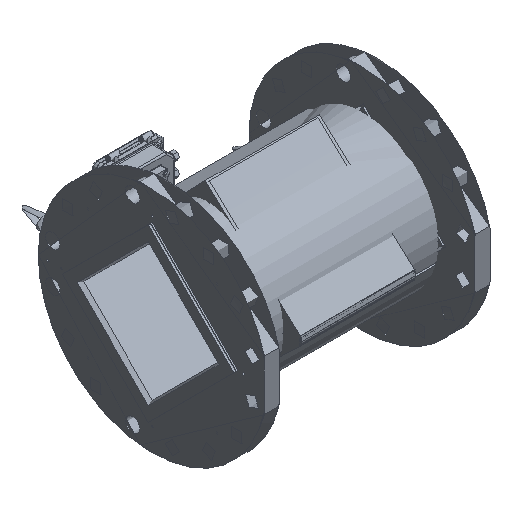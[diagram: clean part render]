
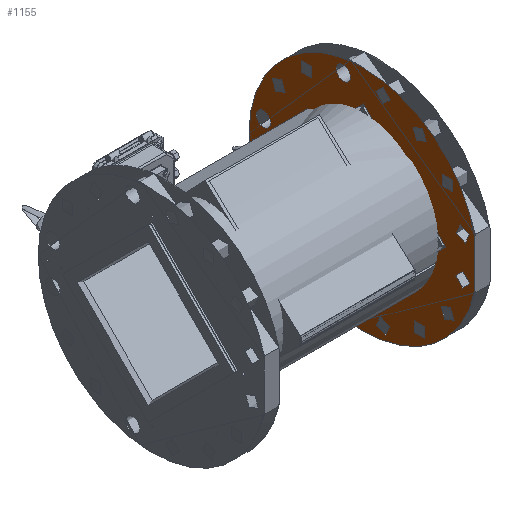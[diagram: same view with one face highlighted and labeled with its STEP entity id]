
A CAD part, isometric view. The second image highlights one B-rep face of the part: STEP entity #1155.
In plain terms, the highlighted planar face has unit normal (-1, 0, 0).
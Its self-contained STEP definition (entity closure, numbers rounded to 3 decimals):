
#1155=ADVANCED_FACE('',(#25189,#25191,#25193,#25195,#25197,#25199,#25201,#25203,
#25205,#25207,#25209,#25211,#25213,#25215,#25217,#25219,#25221,#25223,#25225),#25227,
.T.);
#25189=FACE_BOUND('',#25190,.T.);
#25190=EDGE_LOOP('',(#39818,#39819));
#25191=FACE_BOUND('',#25192,.T.);
#25192=EDGE_LOOP('',(#39820));
#25193=FACE_BOUND('',#25194,.T.);
#25194=EDGE_LOOP('',(#39821));
#25195=FACE_BOUND('',#25196,.T.);
#25196=EDGE_LOOP('',(#39822));
#25197=FACE_BOUND('',#25198,.T.);
#25198=EDGE_LOOP('',(#39823));
#25199=FACE_BOUND('',#25200,.T.);
#25200=EDGE_LOOP('',(#39824));
#25201=FACE_BOUND('',#25202,.T.);
#25202=EDGE_LOOP('',(#39825));
#25203=FACE_BOUND('',#25204,.T.);
#25204=EDGE_LOOP('',(#39826));
#25205=FACE_BOUND('',#25206,.T.);
#25206=EDGE_LOOP('',(#39827));
#25207=FACE_BOUND('',#25208,.T.);
#25208=EDGE_LOOP('',(#39828));
#25209=FACE_BOUND('',#25210,.T.);
#25210=EDGE_LOOP('',(#39829));
#25211=FACE_BOUND('',#25212,.T.);
#25212=EDGE_LOOP('',(#39830));
#25213=FACE_BOUND('',#25214,.T.);
#25214=EDGE_LOOP('',(#39831));
#25215=FACE_BOUND('',#25216,.T.);
#25216=EDGE_LOOP('',(#39832));
#25217=FACE_BOUND('',#25218,.T.);
#25218=EDGE_LOOP('',(#39833));
#25219=FACE_BOUND('',#25220,.T.);
#25220=EDGE_LOOP('',(#39834));
#25221=FACE_BOUND('',#25222,.T.);
#25222=EDGE_LOOP('',(#39835));
#25223=FACE_BOUND('',#25224,.T.);
#25224=EDGE_LOOP('',(#39836));
#25225=FACE_BOUND('',#25226,.T.);
#25226=EDGE_LOOP('',(#39837));
#25227=PLANE('',#25228);
#25228=AXIS2_PLACEMENT_3D('',#25229,#25230,#25231);
#25229=CARTESIAN_POINT('',(207.,-169.327,0.));
#25230=DIRECTION('',(-1.,0.,0.));
#25231=DIRECTION('',(0.,1.,0.));
#39818=ORIENTED_EDGE('',*,*,#53259,.T.);
#39819=ORIENTED_EDGE('',*,*,#53293,.F.);
#39820=ORIENTED_EDGE('',*,*,#53262,.T.);
#39821=ORIENTED_EDGE('',*,*,#53264,.T.);
#39822=ORIENTED_EDGE('',*,*,#53294,.T.);
#39823=ORIENTED_EDGE('',*,*,#53266,.T.);
#39824=ORIENTED_EDGE('',*,*,#53267,.T.);
#39825=ORIENTED_EDGE('',*,*,#53268,.T.);
#39826=ORIENTED_EDGE('',*,*,#53269,.T.);
#39827=ORIENTED_EDGE('',*,*,#53270,.T.);
#39828=ORIENTED_EDGE('',*,*,#53271,.T.);
#39829=ORIENTED_EDGE('',*,*,#53272,.T.);
#39830=ORIENTED_EDGE('',*,*,#53273,.T.);
#39831=ORIENTED_EDGE('',*,*,#53274,.T.);
#39832=ORIENTED_EDGE('',*,*,#53275,.T.);
#39833=ORIENTED_EDGE('',*,*,#53276,.T.);
#39834=ORIENTED_EDGE('',*,*,#53277,.T.);
#39835=ORIENTED_EDGE('',*,*,#53278,.T.);
#39836=ORIENTED_EDGE('',*,*,#53279,.T.);
#39837=ORIENTED_EDGE('',*,*,#53280,.T.);
#53259=EDGE_CURVE('',#56061,#56059,#56062,.F.);
#53262=EDGE_CURVE('',#56065,#56065,#56066,.T.);
#53264=EDGE_CURVE('',#56069,#56069,#56070,.T.);
#53266=EDGE_CURVE('',#56073,#56073,#56074,.T.);
#53267=EDGE_CURVE('',#56075,#56075,#56076,.T.);
#53268=EDGE_CURVE('',#56077,#56077,#56078,.T.);
#53269=EDGE_CURVE('',#56079,#56079,#56080,.T.);
#53270=EDGE_CURVE('',#56081,#56081,#56082,.T.);
#53271=EDGE_CURVE('',#56083,#56083,#56084,.T.);
#53272=EDGE_CURVE('',#56085,#56085,#56086,.T.);
#53273=EDGE_CURVE('',#56087,#56087,#56088,.T.);
#53274=EDGE_CURVE('',#56089,#56089,#56090,.T.);
#53275=EDGE_CURVE('',#56091,#56091,#56092,.T.);
#53276=EDGE_CURVE('',#56093,#56093,#56094,.T.);
#53277=EDGE_CURVE('',#56095,#56095,#56096,.T.);
#53278=EDGE_CURVE('',#56097,#56097,#56098,.T.);
#53279=EDGE_CURVE('',#56099,#56099,#56100,.T.);
#53280=EDGE_CURVE('',#56101,#56101,#56102,.T.);
#53293=EDGE_CURVE('',#56061,#56059,#56126,.T.);
#53294=EDGE_CURVE('',#56127,#56127,#56128,.T.);
#56059=VERTEX_POINT('',#61846);
#56061=VERTEX_POINT('',#61857);
#56062=LINE('',#61858,#61859);
#56065=VERTEX_POINT('',#61875);
#56066=CIRCLE('',#61876,3.15);
#56069=VERTEX_POINT('',#61885);
#56070=CIRCLE('',#61886,15.);
#56073=VERTEX_POINT('',#61952);
#56074=CIRCLE('',#61953,15.);
#56075=VERTEX_POINT('',#61957);
#56076=CIRCLE('',#61958,15.);
#56077=VERTEX_POINT('',#61962);
#56078=CIRCLE('',#61963,15.);
#56079=VERTEX_POINT('',#61967);
#56080=CIRCLE('',#61968,15.);
#56081=VERTEX_POINT('',#61972);
#56082=CIRCLE('',#61973,15.);
#56083=VERTEX_POINT('',#61977);
#56084=CIRCLE('',#61978,15.);
#56085=VERTEX_POINT('',#61982);
#56086=CIRCLE('',#61983,15.);
#56087=VERTEX_POINT('',#61987);
#56088=CIRCLE('',#61988,15.);
#56089=VERTEX_POINT('',#61992);
#56090=CIRCLE('',#61993,15.);
#56091=VERTEX_POINT('',#61997);
#56092=CIRCLE('',#61998,15.);
#56093=VERTEX_POINT('',#62002);
#56094=CIRCLE('',#62003,15.);
#56095=VERTEX_POINT('',#62007);
#56096=CIRCLE('',#62008,15.);
#56097=VERTEX_POINT('',#62012);
#56098=CIRCLE('',#62013,15.);
#56099=VERTEX_POINT('',#62017);
#56100=CIRCLE('',#62018,15.);
#56101=VERTEX_POINT('',#62022);
#56102=CIRCLE('',#62023,15.);
#56126=CIRCLE('',#62313,241.5);
#56127=VERTEX_POINT('',#62317);
#56128=CIRCLE('',#62318,175.);
#61846=CARTESIAN_POINT('',(207.,-405.827,48.888));
#61857=CARTESIAN_POINT('',(207.,-405.827,-48.888));
#61858=CARTESIAN_POINT('',(207.,-405.827,48.888));
#61859=VECTOR('',#61860,1.);
#61860=DIRECTION('',(0.,0.,-1.));
#61875=CARTESIAN_POINT('',(207.,51.673,3.15));
#61876=AXIS2_PLACEMENT_3D('',#61877,#61878,#61879);
#61877=CARTESIAN_POINT('',(207.,51.673,0.));
#61878=DIRECTION('',(1.,0.,0.));
#61879=DIRECTION('',(0.,0.,1.));
#61885=CARTESIAN_POINT('',(207.,41.542,56.944));
#61886=AXIS2_PLACEMENT_3D('',#61887,#61888,#61889);
#61887=CARTESIAN_POINT('',(207.,41.542,41.944));
#61888=DIRECTION('',(1.,0.,0.));
#61889=DIRECTION('',(0.,0.,1.));
#61952=CARTESIAN_POINT('',(207.,3.699,133.306));
#61953=AXIS2_PLACEMENT_3D('',#61954,#61955,#61956);
#61954=CARTESIAN_POINT('',(207.,9.439,119.448));
#61955=DIRECTION('',(1.,0.,0.));
#61956=DIRECTION('',(0.,-0.383,0.924));
#61957=CARTESIAN_POINT('',(207.,-60.486,189.373));
#61958=AXIS2_PLACEMENT_3D('',#61959,#61960,#61961);
#61959=CARTESIAN_POINT('',(207.,-49.88,178.766));
#61960=DIRECTION('',(1.,0.,0.));
#61961=DIRECTION('',(0.,-0.707,0.707));
#61962=CARTESIAN_POINT('',(207.,-141.241,216.609));
#61963=AXIS2_PLACEMENT_3D('',#61964,#61965,#61966);
#61964=CARTESIAN_POINT('',(207.,-127.383,210.869));
#61965=DIRECTION('',(1.,0.,0.));
#61966=DIRECTION('',(0.,-0.924,0.383));
#61967=CARTESIAN_POINT('',(207.,-226.272,210.869));
#61968=AXIS2_PLACEMENT_3D('',#61969,#61970,#61971);
#61969=CARTESIAN_POINT('',(207.,-211.272,210.869));
#61970=DIRECTION('',(1.,0.,0.));
#61971=DIRECTION('',(0.,-1.,0.));
#61972=CARTESIAN_POINT('',(207.,-302.633,173.026));
#61973=AXIS2_PLACEMENT_3D('',#61974,#61975,#61976);
#61974=CARTESIAN_POINT('',(207.,-288.775,178.766));
#61975=DIRECTION('',(1.,0.,0.));
#61976=DIRECTION('',(0.,-0.924,-0.383));
#61977=CARTESIAN_POINT('',(207.,-358.7,108.841));
#61978=AXIS2_PLACEMENT_3D('',#61979,#61980,#61981);
#61979=CARTESIAN_POINT('',(207.,-348.093,119.448));
#61980=DIRECTION('',(1.,0.,0.));
#61981=DIRECTION('',(0.,-0.707,-0.707));
#61982=CARTESIAN_POINT('',(207.,-385.936,28.086));
#61983=AXIS2_PLACEMENT_3D('',#61984,#61985,#61986);
#61984=CARTESIAN_POINT('',(207.,-380.196,41.944));
#61985=DIRECTION('',(1.,0.,0.));
#61986=DIRECTION('',(0.,-0.383,-0.924));
#61987=CARTESIAN_POINT('',(207.,-380.196,-56.944));
#61988=AXIS2_PLACEMENT_3D('',#61989,#61990,#61991);
#61989=CARTESIAN_POINT('',(207.,-380.196,-41.944));
#61990=DIRECTION('',(1.,0.,0.));
#61991=DIRECTION('',(0.,0.,-1.));
#61992=CARTESIAN_POINT('',(207.,-342.353,-133.306));
#61993=AXIS2_PLACEMENT_3D('',#61994,#61995,#61996);
#61994=CARTESIAN_POINT('',(207.,-348.093,-119.448));
#61995=DIRECTION('',(1.,0.,0.));
#61996=DIRECTION('',(0.,0.383,-0.924));
#61997=CARTESIAN_POINT('',(207.,-278.168,-189.373));
#61998=AXIS2_PLACEMENT_3D('',#61999,#62000,#62001);
#61999=CARTESIAN_POINT('',(207.,-288.775,-178.766));
#62000=DIRECTION('',(1.,0.,0.));
#62001=DIRECTION('',(0.,0.707,-0.707));
#62002=CARTESIAN_POINT('',(207.,-197.413,-216.609));
#62003=AXIS2_PLACEMENT_3D('',#62004,#62005,#62006);
#62004=CARTESIAN_POINT('',(207.,-211.272,-210.869));
#62005=DIRECTION('',(1.,0.,0.));
#62006=DIRECTION('',(0.,0.924,-0.383));
#62007=CARTESIAN_POINT('',(207.,-112.383,-210.869));
#62008=AXIS2_PLACEMENT_3D('',#62009,#62010,#62011);
#62009=CARTESIAN_POINT('',(207.,-127.383,-210.869));
#62010=DIRECTION('',(1.,0.,0.));
#62011=DIRECTION('',(0.,1.,0.));
#62012=CARTESIAN_POINT('',(207.,-36.021,-173.026));
#62013=AXIS2_PLACEMENT_3D('',#62014,#62015,#62016);
#62014=CARTESIAN_POINT('',(207.,-49.88,-178.766));
#62015=DIRECTION('',(1.,0.,0.));
#62016=DIRECTION('',(0.,0.924,0.383));
#62017=CARTESIAN_POINT('',(207.,20.045,-108.841));
#62018=AXIS2_PLACEMENT_3D('',#62019,#62020,#62021);
#62019=CARTESIAN_POINT('',(207.,9.439,-119.448));
#62020=DIRECTION('',(1.,0.,0.));
#62021=DIRECTION('',(0.,0.707,0.707));
#62022=CARTESIAN_POINT('',(207.,47.282,-28.086));
#62023=AXIS2_PLACEMENT_3D('',#62024,#62025,#62026);
#62024=CARTESIAN_POINT('',(207.,41.542,-41.944));
#62025=DIRECTION('',(1.,0.,0.));
#62026=DIRECTION('',(0.,0.383,0.924));
#62313=AXIS2_PLACEMENT_3D('',#62314,#62315,#62316);
#62314=CARTESIAN_POINT('',(207.,-169.327,0.));
#62315=DIRECTION('',(1.,0.,0.));
#62316=DIRECTION('',(0.,-0.979,-0.202));
#62317=CARTESIAN_POINT('',(207.,5.673,0.));
#62318=AXIS2_PLACEMENT_3D('',#62319,#62320,#62321);
#62319=CARTESIAN_POINT('',(207.,-169.327,0.));
#62320=DIRECTION('',(1.,0.,0.));
#62321=DIRECTION('',(0.,1.,0.));
